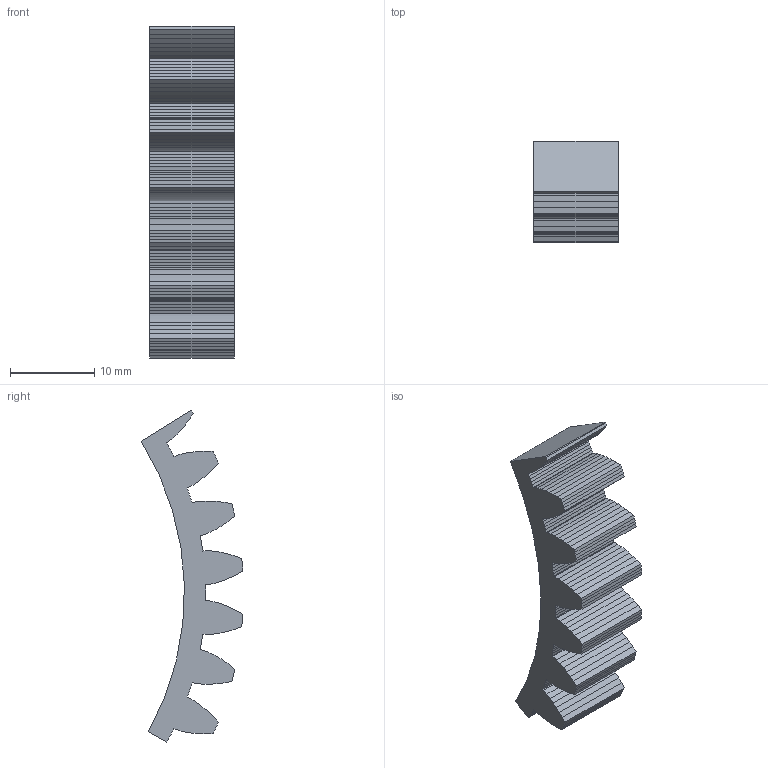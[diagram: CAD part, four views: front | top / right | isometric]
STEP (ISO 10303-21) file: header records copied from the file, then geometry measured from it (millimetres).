
FILE_DESCRIPTION(('Open CASCADE Model'),'2;1');
FILE_NAME('Open CASCADE Shape Model','2026-10-16T00:30:56',('Author'),( 'Open CASCADE'),'Open CASCADE STEP processor 7.9','Open CASCADE 7.9' ,'Unknown');
FILE_SCHEMA(('AUTOMOTIVE_DESIGN { 1 0 10303 214 1 1 1 1 }'));
Length unit declared in the file: millimetre
Products named in the file (1): Open CASCADE STEP translator 7.9 27
Bounding box: 10 x 12.06 x 39.41 mm (x, y, z)
Volume: 1840.5 mm3; surface area: 1668.5 mm2
Topology: 1 solids, 1 shells, 170 faces, 504 edges, 336 vertices
Faces by surface type: plane 169, cylinder 1
Entity records: 12122 total; most frequent: CARTESIAN_POINT 2047, DIRECTION 1838, LINE 1492, VECTOR 1492, ORIENTED_EDGE 1008, PCURVE 1008, DEFINITIONAL_REPRESENTATION 1008, EDGE_CURVE 504
